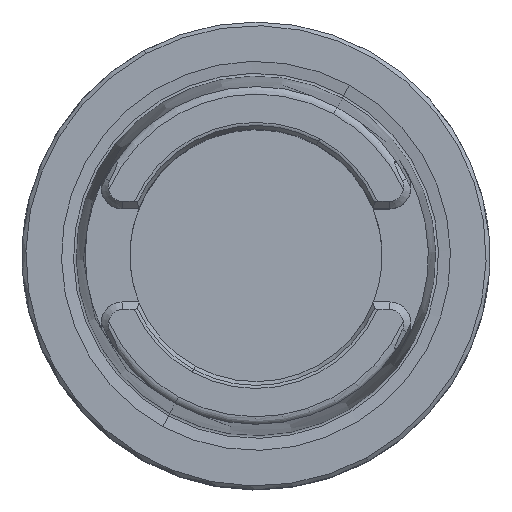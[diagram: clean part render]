
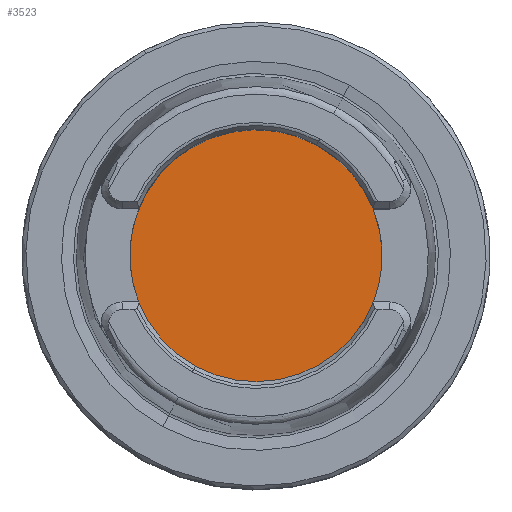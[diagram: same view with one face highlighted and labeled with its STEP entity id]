
A CAD part, top view. The second image highlights one B-rep face of the part: STEP entity #3523.
In plain terms, the highlighted planar face has unit normal (0, 0, 1).
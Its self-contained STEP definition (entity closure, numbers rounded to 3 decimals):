
#3503=AXIS2_PLACEMENT_3D('Plane Axis2P3D',#3500,#3501,#3502) ;
#3507=AXIS2_PLACEMENT_3D('Circle Axis2P3D',#3505,#3506,$) ;
#3516=AXIS2_PLACEMENT_3D('Circle Axis2P3D',#3514,#3515,$) ;
#3500=CARTESIAN_POINT('Axis2P3D Location',(0.,-15.75,-10.)) ;
#3505=CARTESIAN_POINT('Axis2P3D Location',(0.,0.,-10.)) ;
#3509=CARTESIAN_POINT('Vertex',(8.15,14.919,-10.)) ;
#3511=CARTESIAN_POINT('Vertex',(-8.15,-14.919,-10.)) ;
#3514=CARTESIAN_POINT('Axis2P3D Location',(0.,0.,-10.)) ;
#3501=DIRECTION('Axis2P3D Direction',(0.,0.,-1.)) ;
#3502=DIRECTION('Axis2P3D XDirection',(-1.,0.,0.)) ;
#3506=DIRECTION('Axis2P3D Direction',(0.,0.,-1.)) ;
#3515=DIRECTION('Axis2P3D Direction',(0.,0.,-1.)) ;
#3520=ORIENTED_EDGE('',*,*,#3513,.T.) ;
#3521=ORIENTED_EDGE('',*,*,#3518,.T.) ;
#3523=ADVANCED_FACE('NO_CUT',(#3522),#3504,.F.) ;
#3508=CIRCLE('generated circle',#3507,17.) ;
#3517=CIRCLE('generated circle',#3516,17.) ;
#3513=EDGE_CURVE('',#3510,#3512,#3508,.F.) ;
#3518=EDGE_CURVE('',#3512,#3510,#3517,.F.) ;
#3519=EDGE_LOOP('',(#3520,#3521)) ;
#3522=FACE_OUTER_BOUND('',#3519,.T.) ;
#3504=PLANE('',#3503) ;
#3510=VERTEX_POINT('',#3509) ;
#3512=VERTEX_POINT('',#3511) ;
